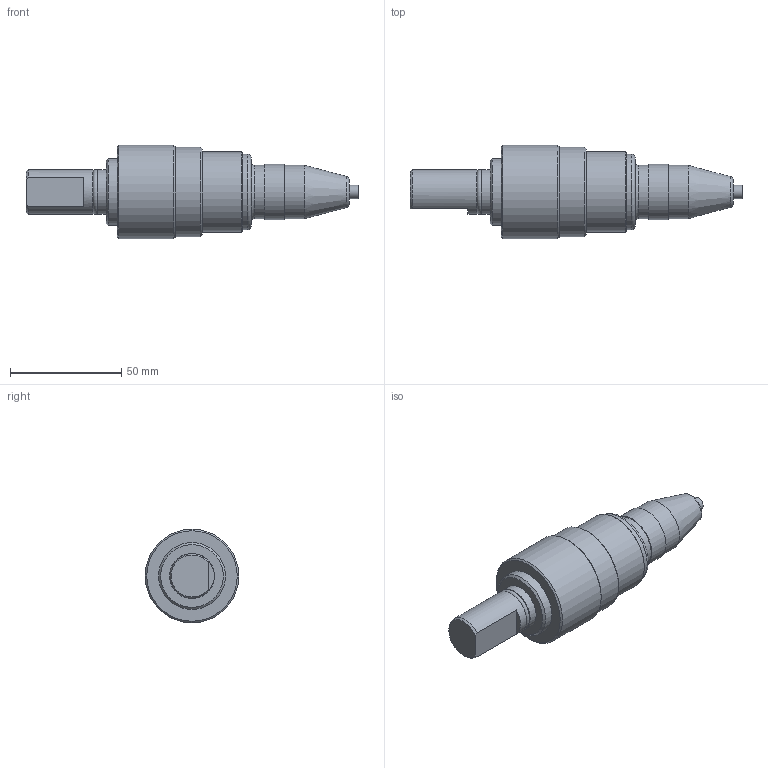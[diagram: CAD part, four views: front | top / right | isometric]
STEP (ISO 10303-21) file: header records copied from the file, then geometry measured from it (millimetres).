
FILE_DESCRIPTION( ( 'STEP AP214' ), '1' );
FILE_NAME( 'p:/temp/worker_127/temp/app_40_02018111516114549029583192d056f_000000_00_00_000000/format_0/AMF550223.stp', '2018-11-15T15:11:45', ( '' ), ( '' ), ' ', 'PARTsolutions', ' ' );
FILE_SCHEMA( ( 'AUTOMOTIVE_DESIGN { 1 0 10303 214 1 1 1 1 }' ) );
Length unit declared in the file: millimetre
Products named in the file (1): _AMF550223
Bounding box: 149 x 42 x 42 mm (x, y, z)
Volume: 103667.3 mm3; surface area: 15909.7 mm2
Topology: 1 solids, 1 shells, 41 faces, 70 edges, 43 vertices
Faces by surface type: plane 16, cylinder 14, cone 7, torus 4
Full cylindrical faces by diameter (mm): 3 x1, 6 x1, 18.845 x2, 20 x2, 24 x2, 24.9 x1, 30 x1, 34 x1, 36 x1, 40 x1, 42 x1
Entity records: 1196 total; most frequent: DIRECTION 166, CARTESIAN_POINT 136, ORIENTED_EDGE 90, AXIS2_PLACEMENT_3D 81, EDGE_LOOP 77, FACE_OUTER_BOUND 59, EDGE_CURVE 45, VERTEX_POINT 43
